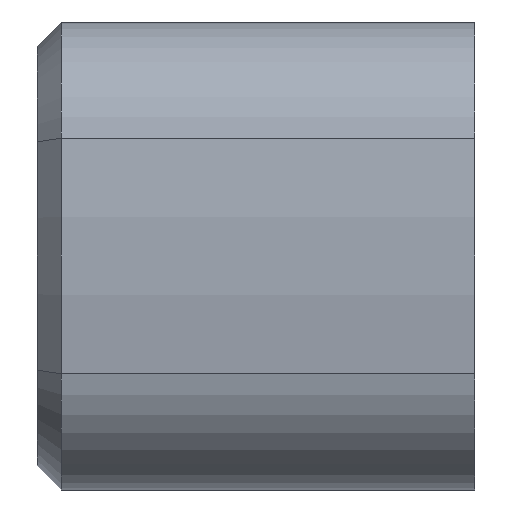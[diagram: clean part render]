
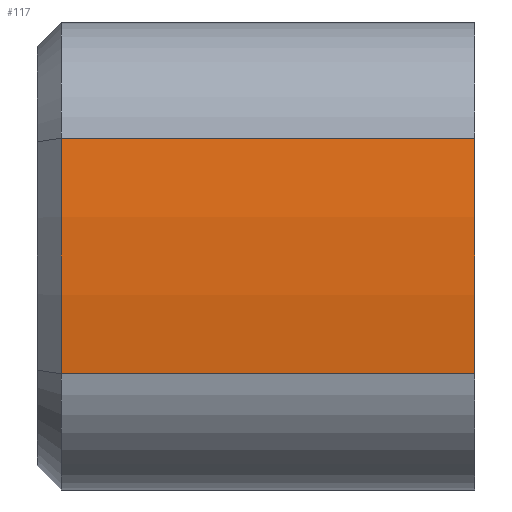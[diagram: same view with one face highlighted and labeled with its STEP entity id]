
A CAD part, left-side view. The second image highlights one B-rep face of the part: STEP entity #117.
In plain terms, the highlighted cylindrical face has radius 27 mm (diameter 54 mm), a partial arc.
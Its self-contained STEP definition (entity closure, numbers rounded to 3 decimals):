
#117 = ADVANCED_FACE( '', ( #224 ), #225, .T. );
#224 = FACE_OUTER_BOUND( '', #338, .T. );
#225 = CYLINDRICAL_SURFACE( '', #339, 27. );
#338 = EDGE_LOOP( '', ( #665, #666, #667, #668 ) );
#339 = AXIS2_PLACEMENT_3D( '', #669, #670, #671 );
#665 = ORIENTED_EDGE( '', *, *, #821, .F. );
#666 = ORIENTED_EDGE( '', *, *, #791, .T. );
#667 = ORIENTED_EDGE( '', *, *, #822, .T. );
#668 = ORIENTED_EDGE( '', *, *, #814, .T. );
#669 = CARTESIAN_POINT( '', ( 0., 14.5, 0. ) );
#670 = DIRECTION( '', ( 0., 1., 0. ) );
#671 = DIRECTION( '', ( 0., 0., -1. ) );
#791 = EDGE_CURVE( '', #946, #954, #956, .F. );
#814 = EDGE_CURVE( '', #978, #990, #992, .T. );
#821 = EDGE_CURVE( '', #946, #990, #999, .T. );
#822 = EDGE_CURVE( '', #954, #978, #1000, .T. );
#946 = VERTEX_POINT( '', #1214 );
#954 = VERTEX_POINT( '', #1226 );
#956 = CIRCLE( '', #1229, 27. );
#978 = VERTEX_POINT( '', #1261 );
#990 = VERTEX_POINT( '', #1275 );
#992 = CIRCLE( '', #1277, 27. );
#999 = LINE( '', #1290, #1291 );
#1000 = LINE( '', #1292, #1293 );
#1214 = CARTESIAN_POINT( '', ( -26.717, 13.7, 3.9 ) );
#1226 = CARTESIAN_POINT( '', ( -26.717, 13.7, -3.9 ) );
#1229 = AXIS2_PLACEMENT_3D( '', #1431, #1432, #1433 );
#1261 = CARTESIAN_POINT( '', ( -26.717, 0., -3.9 ) );
#1275 = CARTESIAN_POINT( '', ( -26.717, 0., 3.9 ) );
#1277 = AXIS2_PLACEMENT_3D( '', #1476, #1477, #1478 );
#1290 = CARTESIAN_POINT( '', ( -26.717, 14.5, 3.9 ) );
#1291 = VECTOR( '', #1485, 1000. );
#1292 = CARTESIAN_POINT( '', ( -26.717, 14.5, -3.9 ) );
#1293 = VECTOR( '', #1486, 1000. );
#1431 = CARTESIAN_POINT( '', ( 0., 13.7, 0. ) );
#1432 = DIRECTION( '', ( 0., 1., 0. ) );
#1433 = DIRECTION( '', ( 0., 0., 1. ) );
#1476 = CARTESIAN_POINT( '', ( 0., 0., 0. ) );
#1477 = DIRECTION( '', ( 0., 1., 0. ) );
#1478 = DIRECTION( '', ( 1., 0., 0. ) );
#1485 = DIRECTION( '', ( 0., -1., 0. ) );
#1486 = DIRECTION( '', ( 0., -1., 0. ) );
